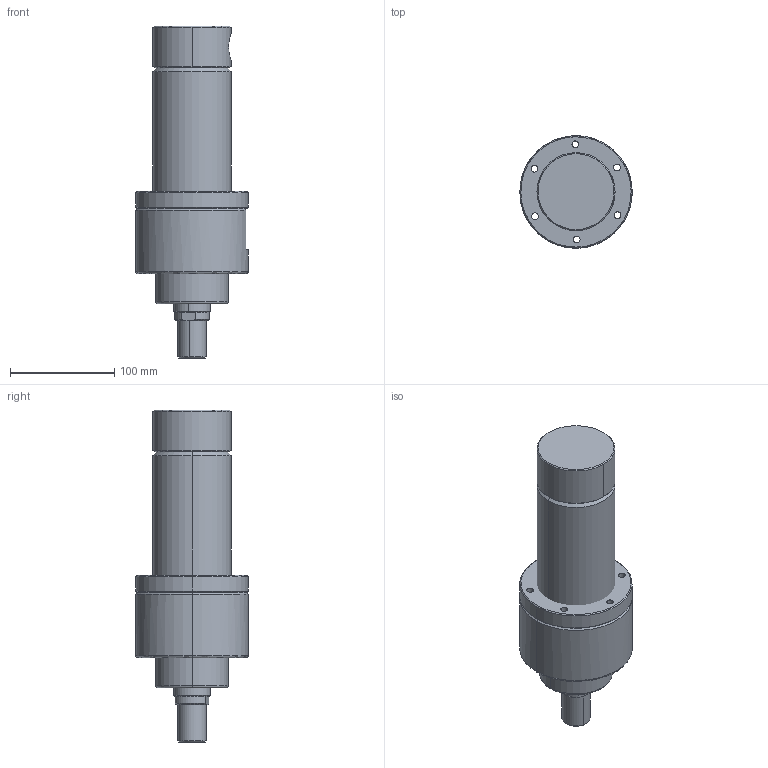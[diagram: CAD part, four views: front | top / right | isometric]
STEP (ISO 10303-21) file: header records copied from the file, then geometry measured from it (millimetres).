
FILE_DESCRIPTION (( 'STEP AP214' ), '1' );
FILE_NAME ('63-35-75-WEB.STEP', '2021-01-13T11:59:28', ( 'cagdas' ), ( '' ), 'SwSTEP 2.0', 'SolidWorks 2021', '' );
FILE_SCHEMA (( 'AUTOMOTIVE_DESIGN' ));
Length unit declared in the file: millimetre
Products named in the file (6): 35_K_MIL_WEB; 63-35-75-WEB; 63x75_BORU_WEB; 63_36_CETOP_烰_KAPAK; 63_Gerdirme _Flansý; TYAK_63_75
Assembly tree (5 placements, depth 2):
  63-35-75-WEB
    63x75_BORU_WEB
    TYAK_63_75
    63_36_CETOP_烰_KAPAK
    63_Gerdirme _Flansý
    35_K_MIL_WEB
Bounding box: 107.99 x 107.99 x 319 mm (x, y, z)
Volume: 1181219.4 mm3; surface area: 201635.3 mm2
Topology: 5 solids, 5 shells, 377 faces, 925 edges, 590 vertices
Faces by surface type: plane 120, cylinder 102, bspline 87, cone 64, torus 4
Entity records: 17203 total; most frequent: CARTESIAN_POINT 8379, ORIENTED_EDGE 1850, DIRECTION 1529, EDGE_CURVE 925, VERTEX_POINT 590, AXIS2_PLACEMENT_3D 575, EDGE_LOOP 443, VECTOR 379
